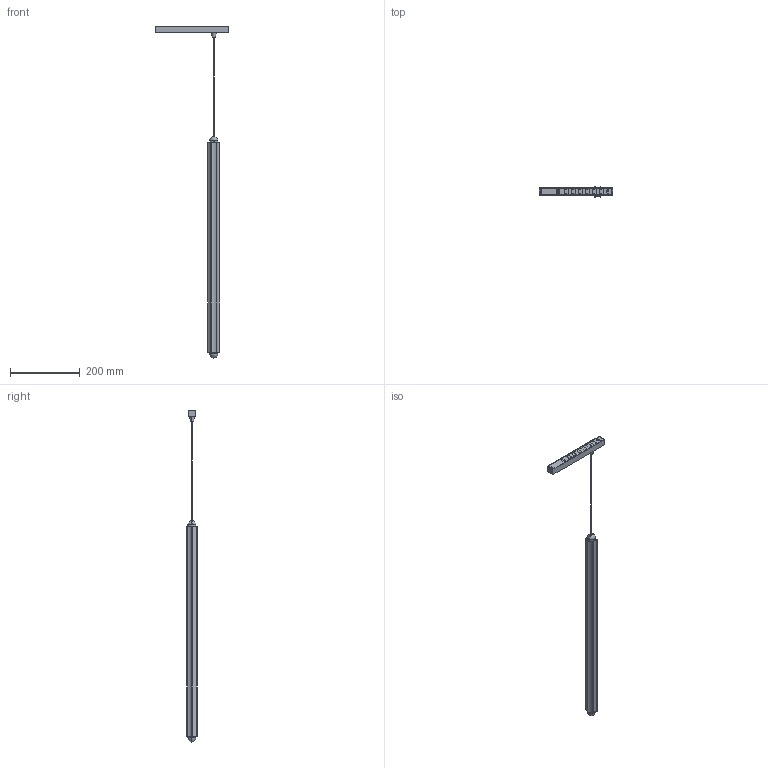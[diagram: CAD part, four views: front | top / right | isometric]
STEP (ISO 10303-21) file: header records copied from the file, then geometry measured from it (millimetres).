
FILE_DESCRIPTION(/* description */ (''),/* implementation_level */ '2;1');
FILE_NAME(/* name */ '64602141D_3d',/* time_stamp */ '2026-05-11T08:45:50+02:00',/* author */ (''),/* organization */ (''),/* preprocessor_version */ 'ST-DEVELOPER v19.2',/* originating_system */ 'Rhino 8.30',/* authorisation */ '');
FILE_SCHEMA (('CONFIG_CONTROL_DESIGN'));
Length unit declared in the file: millimetre
Products named in the file (1): Document
Bounding box: 209 x 29.26 x 950.26 mm (x, y, z)
Volume: 228182.3 mm3; surface area: 123001.9 mm2
Topology: 4 solids, 12 shells, 101 faces, 346 edges, 251 vertices
Faces by surface type: cylinder 52, plane 43, bspline 6
Entity records: 4524 total; most frequent: CARTESIAN_POINT 1883, ORIENTED_EDGE 593, EDGE_CURVE 342, DIRECTION 283, VERTEX_POINT 251, B_SPLINE_CURVE_WITH_KNOTS 239, AXIS2_PLACEMENT_3D 189, EDGE_LOOP 128
